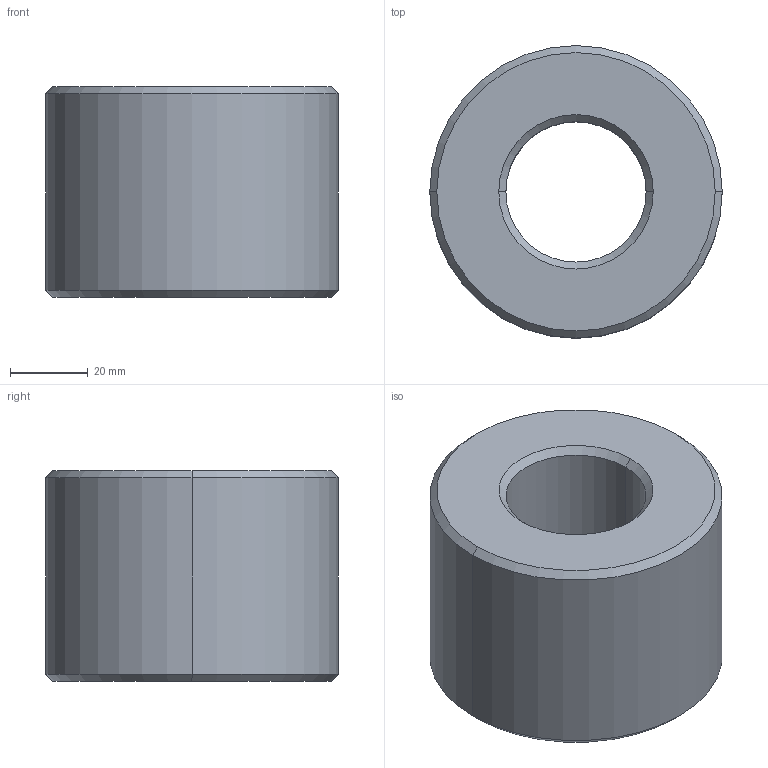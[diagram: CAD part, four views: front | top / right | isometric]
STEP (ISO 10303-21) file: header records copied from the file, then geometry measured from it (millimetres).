
FILE_DESCRIPTION (( 'STEP AP203' ), '1' );
FILE_NAME ('L1339.R36-06.step', '2024-10-24T14:11:53', ( '' ), ( '' ), 'SwSTEP 2.0', 'SolidWorks 2019', '' );
FILE_SCHEMA (( 'CONFIG_CONTROL_DESIGN' ));
Length unit declared in the file: millimetre
Products named in the file (1): L1339.R36-06
Bounding box: 75 x 75 x 54 mm (x, y, z)
Volume: 182469.5 mm3; surface area: 24895.3 mm2
Topology: 1 solids, 1 shells, 14 faces, 28 edges, 16 vertices
Faces by surface type: cone 8, cylinder 4, plane 2
Entity records: 445 total; most frequent: DIRECTION 74, CARTESIAN_POINT 59, ORIENTED_EDGE 56, AXIS2_PLACEMENT_3D 31, EDGE_CURVE 28, CIRCLE 16, VERTEX_POINT 16, EDGE_LOOP 16
